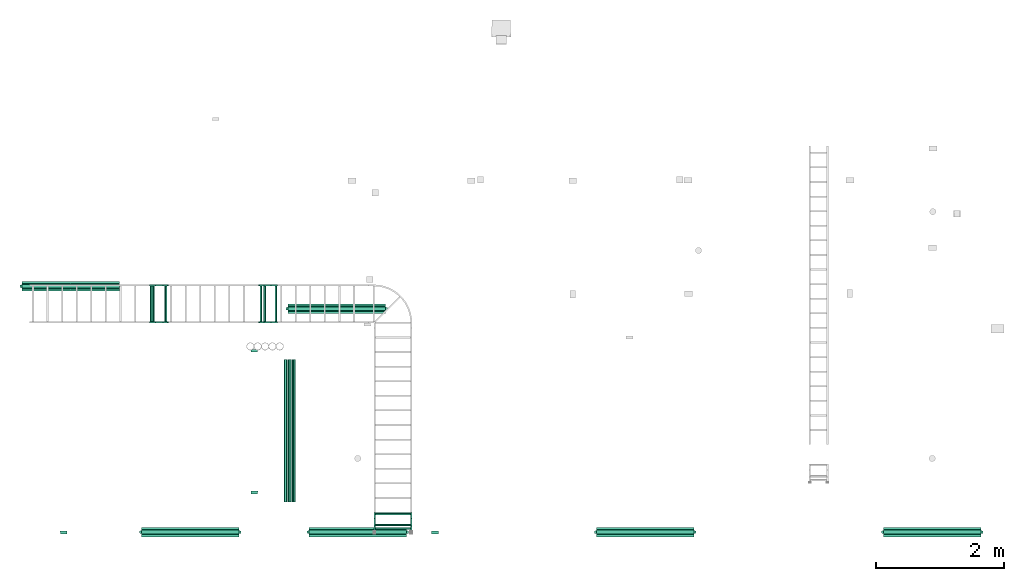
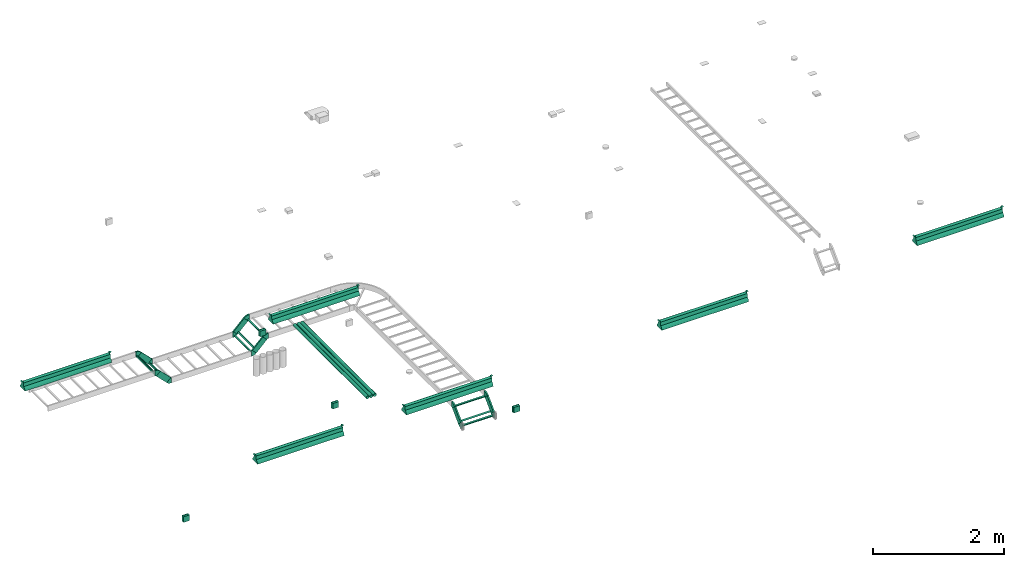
# One storey, part 1 of 14: 10 flow fittings, 6 flow segments, 6 flow terminals.
"""IFC2X3 building model written with IfcOpenShell, lengths in millimetres."""

from ifc_helpers import new_model, entity, si_unit, converted_unit, derived_unit, direction, frame, origin_with_axes, origin_2d_with_axis, place, context, subcontext, project, spatial, hollow_circle, extrude, open_shell, surface_model, source, transform, mapped, type_object, element, save


model = new_model("IFC2X3")

# Units and contexts
model_context = context("Model", 3, precision=0.01, world=frame((0.0, 4.29681676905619e-09, 0.0)), true_north=direction((4.01073788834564e-13, 1.0)))
plan_context = context("Plan", 3, precision=0.01, world=frame((0.0, 4.29681676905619e-09, 0.0)), true_north=direction((4.01073788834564e-13, 1.0)))
body_context = subcontext(model_context, "Body", "Model", "MODEL_VIEW")
ifc_project = project(units=[converted_unit("PLANEANGLEUNIT", "DEGREE", entity("IfcPositiveLengthMeasure", 0.0174532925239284), si_unit("PLANEANGLEUNIT", "RADIAN"), dimensions=[0, 0, 0, 0, 0, 0, 0]), si_unit("AREAUNIT", "SQUARE_METRE"), si_unit("LENGTHUNIT", "METRE", prefix="MILLI"), si_unit("MASSUNIT", "GRAM", prefix="KILO"), si_unit("POWERUNIT", "WATT"), si_unit("PRESSUREUNIT", "PASCAL"), si_unit("FORCEUNIT", "NEWTON", prefix="KILO"), si_unit("ELECTRICVOLTAGEUNIT", "VOLT"), si_unit("ELECTRICCURRENTUNIT", "AMPERE"), si_unit("THERMODYNAMICTEMPERATUREUNIT", "DEGREE_CELSIUS"), si_unit("TIMEUNIT", "SECOND"), si_unit("VOLUMEUNIT", "CUBIC_METRE"), derived_unit("LINEARVELOCITYUNIT", [(si_unit("LENGTHUNIT", "METRE"), 1), (si_unit("TIMEUNIT", "SECOND"), -1)]), derived_unit("VOLUMETRICFLOWRATEUNIT", [(si_unit("VOLUMEUNIT", "CUBIC_METRE"), 1), (si_unit("TIMEUNIT", "SECOND"), -1)]), derived_unit("THERMALTRANSMITTANCEUNIT", [(si_unit("POWERUNIT", "WATT"), 1), (si_unit("THERMODYNAMICTEMPERATUREUNIT", "KELVIN"), -1), (si_unit("AREAUNIT", "SQUARE_METRE"), -1)]), derived_unit("SOUNDPRESSUREUNIT", [(si_unit("PRESSUREUNIT", "PASCAL"), 1)])], contexts=[model_context, plan_context])

# Site, building, storey
site_placement = place(None, frame((0.0, -4.29681676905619e-09, 0.0), z_axis=(0.0, 0.0, 1.0), x_axis=(1.0, 0.0, 0.0)))
site = spatial("IfcSite", under=ifc_project, at=site_placement, Name="ENGM", CompositionType="ELEMENT")
building_placement = place(site_placement, frame((0.0, 4.29681676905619e-09, 0.0), z_axis=(0.0, 0.0, 1.0), x_axis=(1.0, 0.0, 0.0)))
building = spatial("IfcBuilding", under=site, at=building_placement, Name="TH", CompositionType="ELEMENT")
storey_placement = place(building_placement, frame((0.0, 0.0, 205200.0), z_axis=(0.0, 0.0, 1.0), x_axis=(1.0, 0.0, 0.0)))
storey = spatial("IfcBuildingStorey", under=building, at=storey_placement, Name="Nivå D + 1,2 m", CompositionType="ELEMENT", Elevation=205200.0)

# Flow fittings
cable_carrier_fitting_type_1 = type_object("IfcCableCarrierFittingType", Name="Kabelbro, bend vertikal (Outside)", PredefinedType="BEND")
shared_shape_1 = source(origin_with_axes(), body_context, "Body", "SurfaceModel", [
    surface_model("IfcShellBasedSurfaceModel", [(-9.29271, 55.62128, 274.60001), (0.42745, 32.15474, -274.60001), (-9.29271, 55.62128, -274.60001), (0.42745, 32.15474, 274.60001), (-23.03909, 22.43458, 274.60001), (-23.03909, 22.43458, -274.60001), (-32.75925, 45.90113, -274.60001), (-32.75925, 45.90113, 274.60001), (-34.85281, -50.0, 300.0), (-34.85281, 50.0, 274.60001), (-34.85281, -50.0, 274.60001), (-34.85281, 50.0, 300.0), (-34.85281, 50.0, -274.60001), (-34.85281, 50.0, -300.0), (-34.85281, -50.0, -300.0), (-34.85281, -50.0, -274.60001), (-24.85281, 50.0, 274.60001), (-24.85281, 50.0, 300.0), (-24.85281, -50.0, 274.60001), (3.61728, -46.25184, 274.60001), (-21.02598, 50.7612, 274.60001), (52.92893, -17.78175, 274.60001), (-17.78175, 52.92893, 274.60001), (-10.71068, 60.0, 274.60001), (60.0, -10.71068, 274.60001), (30.14719, -35.26279, 274.60001), (-24.85281, -50.0, 300.0), (3.61728, -46.25184, 300.0), (-21.02598, 50.7612, 300.0), (30.14719, -35.26279, 300.0), (-17.78175, 52.92893, 300.0), (52.92893, -17.78175, 300.0), (-10.71068, 60.0, 300.0), (60.0, -10.71068, 300.0), (-24.85281, 50.0, -300.0), (-24.85281, 50.0, -274.60001), (-24.85281, -50.0, -300.0), (3.61728, -46.25184, -300.0), (-21.02598, 50.7612, -300.0), (52.92893, -17.78175, -300.0), (-17.78175, 52.92893, -300.0), (-10.71068, 60.0, -300.0), (60.0, -10.71068, -300.0), (30.14719, -35.26279, -300.0), (-24.85281, -50.0, -274.60001), (3.61728, -46.25184, -274.60001), (-21.02598, 50.7612, -274.60001), (30.14719, -35.26279, -274.60001), (-17.78175, 52.92893, -274.60001), (52.92893, -17.78175, -274.60001), (-10.71068, 60.0, -274.60001), (60.0, -10.71068, -274.60001)], [open_shell([[[0, 1, 2]], [[1, 0, 3]], [[1, 3, 4]], [[4, 5, 1]], [[2, 1, 5]], [[5, 6, 2]], [[0, 2, 6]], [[6, 7, 0]], [[3, 0, 7]], [[7, 4, 3]], [[6, 5, 7]], [[4, 7, 5]], [[8, 9, 10]], [[9, 8, 11]], [[12, 13, 14]], [[14, 15, 12]], [[9, 11, 16]], [[17, 16, 11]], [[9, 18, 10]], [[18, 9, 16]], [[19, 18, 16]], [[16, 20, 19]], [[21, 22, 23]], [[21, 23, 24]], [[25, 19, 20]], [[25, 22, 21]], [[25, 20, 22]], [[8, 10, 18]], [[18, 26, 8]], [[8, 26, 11]], [[17, 11, 26]], [[27, 28, 17]], [[17, 26, 27]], [[28, 29, 30]], [[30, 29, 31]], [[31, 32, 30]], [[32, 31, 33]], [[29, 28, 27]], [[13, 12, 34]], [[35, 34, 12]], [[13, 36, 14]], [[36, 13, 34]], [[37, 36, 34]], [[34, 38, 37]], [[39, 40, 41]], [[39, 41, 42]], [[43, 37, 38]], [[43, 40, 39]], [[43, 38, 40]], [[15, 14, 36]], [[36, 44, 15]], [[15, 44, 12]], [[35, 12, 44]], [[45, 46, 35]], [[35, 44, 45]], [[46, 47, 48]], [[48, 47, 49]], [[49, 50, 48]], [[50, 49, 51]], [[47, 46, 45]], [[28, 16, 17]], [[20, 16, 28]], [[30, 22, 20]], [[28, 30, 20]], [[18, 19, 27]], [[27, 26, 18]], [[19, 29, 27]], [[25, 21, 29]], [[31, 29, 21]], [[25, 29, 19]], [[35, 38, 34]], [[46, 38, 35]], [[48, 40, 46]], [[38, 46, 40]], [[36, 37, 44]], [[45, 44, 37]], [[37, 43, 45]], [[43, 39, 49]], [[49, 47, 43]], [[43, 47, 45]], [[24, 23, 32]], [[32, 33, 24]], [[42, 41, 50]], [[50, 51, 42]], [[22, 30, 32]], [[32, 23, 22]], [[31, 21, 24]], [[24, 33, 31]], [[40, 48, 41]], [[50, 41, 48]], [[49, 39, 42]], [[42, 51, 49]]])]),
])
for number, where, z_axis, x_axis, name in (
    (1, (898957.95056, 481175.0, 4345.29999999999), (0.0, -1.0, 0.0), (-1.0, 0.0, 0.0), "Kabelbro, bend vertikal (Outside)"),
    (2, (897028.67479, 481175.0, 4345.29999999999), (0.0, -1.0, 0.0), (-0.707106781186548, 0.0, 0.707106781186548), "Kabelbro, bend vertikal (Outside)"),
    (3, (900805.0, 477868.39967, 4345.29999999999), (1.0, 0.0, 0.0), (0.0, -1.0, 0.0), "Kabelbro, bend vertikal (Outside)"),
):
    element("IfcFlowFitting", number, at=place(storey_placement, frame(where, z_axis=z_axis, x_axis=x_axis)), inside=storey, type_object=cable_carrier_fitting_type_1, Name=name, context=body_context, shape_type="MappedRepresentation", body=[
        mapped(shared_shape_1, transform((0.0, 0.0, 0.0), scale=1.0)),
    ])
cable_carrier_fitting_type_2 = type_object("IfcCableCarrierFittingType", Name="Kabelbro, bend vertikal (Inside)", PredefinedType="BEND")
shared_shape_2 = source(origin_with_axes(), body_context, "Body", "SurfaceModel", [
    surface_model("IfcShellBasedSurfaceModel", [(3.61728, -46.25184, 274.60001), (-24.85281, -50.0, 274.60001), (-24.85281, 50.0, 274.60001), (-21.02598, 50.7612, 274.60001), (30.14719, -35.26279, 274.60001), (-17.78175, 52.92893, 274.60001), (52.92893, -17.78175, 274.60001), (3.61728, -46.25184, 300.0), (-21.02598, 50.7612, 300.0), (-24.85281, 50.0, 300.0), (-24.85281, -50.0, 300.0), (30.14719, -35.26279, 300.0), (-17.78175, 52.92893, 300.0), (52.92893, -17.78175, 300.0), (3.61728, -46.25184, -300.0), (-24.85281, -50.0, -300.0), (-24.85281, 50.0, -300.0), (-21.02598, 50.7612, -300.0), (30.14719, -35.26279, -300.0), (-17.78175, 52.92893, -300.0), (52.92893, -17.78175, -300.0), (3.61728, -46.25184, -274.60001), (-21.02598, 50.7612, -274.60001), (-24.85281, 50.0, -274.60001), (-24.85281, -50.0, -274.60001), (30.14719, -35.26279, -274.60001), (-17.78175, 52.92893, -274.60001), (52.92893, -17.78175, -274.60001), (19.25547, -13.30013, 274.60001), (28.97563, -36.76667, -274.60001), (19.25547, -13.30013, -274.60001), (28.97563, -36.76667, 274.60001), (5.50909, -46.48683, -274.60001), (5.50909, -46.48683, 274.60001), (-4.21107, -23.02029, -274.60001), (-4.21107, -23.02029, 274.60001), (-27.85281, -50.0, 300.0), (-27.85281, 50.0, 274.60001), (-27.85281, -50.0, 274.60001), (-27.85281, 50.0, 300.0), (-27.85281, 50.0, -274.60001), (-27.85281, 50.0, -300.0), (-27.85281, -50.0, -300.0), (-27.85281, -50.0, -274.60001), (-15.66043, 55.05025, 274.60001), (55.05025, -15.66043, 274.60001), (-15.66043, 55.05025, 300.0), (55.05025, -15.66043, 300.0), (-15.66043, 55.05025, -300.0), (55.05025, -15.66043, -300.0), (-15.66043, 55.05025, -274.60001), (55.05025, -15.66043, -274.60001)], [open_shell([[[0, 1, 2]], [[2, 3, 0]], [[4, 0, 3]], [[4, 5, 6]], [[4, 3, 5]], [[7, 8, 9]], [[9, 10, 7]], [[8, 11, 12]], [[12, 11, 13]], [[11, 8, 7]], [[14, 15, 16]], [[16, 17, 14]], [[18, 14, 17]], [[18, 19, 20]], [[18, 17, 19]], [[21, 22, 23]], [[23, 24, 21]], [[22, 25, 26]], [[26, 25, 27]], [[25, 22, 21]], [[8, 2, 9]], [[3, 2, 8]], [[12, 5, 3]], [[8, 12, 3]], [[1, 0, 7]], [[7, 10, 1]], [[0, 11, 7]], [[4, 6, 11]], [[13, 11, 6]], [[4, 11, 0]], [[23, 17, 16]], [[22, 17, 23]], [[26, 19, 22]], [[17, 22, 19]], [[15, 14, 24]], [[21, 24, 14]], [[14, 18, 21]], [[18, 20, 27]], [[27, 25, 18]], [[18, 25, 21]], [[28, 29, 30]], [[29, 28, 31]], [[29, 31, 32]], [[33, 32, 31]], [[30, 29, 32]], [[32, 34, 30]], [[28, 30, 35]], [[34, 35, 30]], [[31, 28, 33]], [[35, 33, 28]], [[34, 32, 33]], [[33, 35, 34]], [[36, 37, 38]], [[37, 36, 39]], [[40, 41, 42]], [[42, 43, 40]], [[37, 39, 2]], [[9, 2, 39]], [[37, 1, 38]], [[1, 37, 2]], [[6, 5, 44]], [[6, 44, 45]], [[36, 38, 1]], [[1, 10, 36]], [[36, 10, 39]], [[9, 39, 10]], [[13, 46, 12]], [[46, 13, 47]], [[41, 40, 16]], [[23, 16, 40]], [[41, 15, 42]], [[15, 41, 16]], [[20, 19, 48]], [[20, 48, 49]], [[43, 42, 15]], [[15, 24, 43]], [[43, 24, 40]], [[23, 40, 24]], [[27, 50, 26]], [[50, 27, 51]], [[45, 44, 47]], [[46, 47, 44]], [[49, 48, 51]], [[50, 51, 48]], [[5, 12, 46]], [[46, 44, 5]], [[13, 6, 45]], [[45, 47, 13]], [[19, 26, 48]], [[50, 48, 26]], [[27, 20, 49]], [[49, 51, 27]]])]),
])
for number, where, z_axis, x_axis, name in (
    (4, (898727.95056, 481175.0, 4115.29999999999), (0.0, 1.0, 0.0), (-0.707106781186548, 0.0, -0.707106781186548), "Kabelbro, bend vertikal (Inside)"),
    (5, (897258.67479, 481175.0, 4115.29999999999), (0.0, 1.0, 0.0), (-1.0, 0.0, 0.0), "Kabelbro, bend vertikal (Inside)"),
    (6, (900805.0, 477638.39967, 4115.29999999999), (-1.0, 0.0, 0.0), (0.0, -0.707106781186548, -0.707106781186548), "Kabelbro, bend vertikal (Inside)"),
):
    element("IfcFlowFitting", number, at=place(storey_placement, frame(where, z_axis=z_axis, x_axis=x_axis)), inside=storey, type_object=cable_carrier_fitting_type_2, Name=name, context=body_context, shape_type="MappedRepresentation", body=[
        mapped(shared_shape_2, transform((0.0, 0.0, 0.0), scale=1.0)),
    ])
junction_box_type = type_object("IfcJunctionBoxType", Name="Koblingsboks åpen", PredefinedType="NOTDEFINED")
shared_shape_3 = source(origin_with_axes(), body_context, "Body", "SurfaceModel", [
    surface_model("IfcShellBasedSurfaceModel", [(-55.0, 46.0, 55.0), (-55.0, 32.2, 55.0), (55.0, 32.2, 55.0), (55.0, 46.0, 55.0), (55.0, 46.0, -55.0), (55.0, 32.2, -55.0), (-55.0, 32.2, -55.0), (-55.0, 46.0, -55.0), (-52.0, 32.2, 52.0), (-52.0, 0.0, 52.0), (52.0, 0.0, 52.0), (52.0, 32.2, 52.0), (52.0, 32.2, -52.0), (52.0, 0.0, -52.0), (-52.0, 0.0, -52.0), (-52.0, 32.2, -52.0)], [open_shell([[[0, 1, 2]], [[2, 3, 0]], [[4, 5, 6]], [[6, 7, 4]], [[2, 1, 6]], [[6, 5, 2]], [[3, 2, 5]], [[5, 4, 3]], [[0, 3, 4]], [[4, 7, 0]], [[1, 0, 7]], [[7, 6, 1]], [[8, 9, 10]], [[10, 11, 8]], [[12, 13, 14]], [[14, 15, 12]], [[10, 9, 14]], [[14, 13, 10]], [[11, 10, 13]], [[13, 12, 11]], [[8, 11, 12]], [[12, 15, 8]], [[9, 8, 15]], [[15, 14, 9]]])]),
])
for number, where, z_axis, x_axis in (
    (7, (898633.58194, 480415.49096, 4800.0), (0.0, 0.0, 1.0), (1.0, 0.0, 0.0)),
    (8, (898633.58194, 478195.49096, 4800.0), (0.0, 0.0, 1.0), (1.0, 0.0, 0.0)),
    (9, (901463.63102, 477570.0125, 4115.0), (0.0, 0.0, 1.0), (1.0, 0.0, 0.0)),
    (10, (895644.66669, 477570.0125, 4115.0), (0.0, 0.0, 1.0), (1.0, 0.0, 0.0)),
):
    element("IfcFlowFitting", number, at=place(storey_placement, frame(where, z_axis=z_axis, x_axis=x_axis)), inside=storey, type_object=junction_box_type, Name="Koblingsboks åpen", context=body_context, shape_type="MappedRepresentation", body=[
        mapped(shared_shape_3, transform((0.0, 0.0, 0.0), scale=1.0)),
    ])

# Flow segments
cable_carrier_segment_type_1 = type_object("IfcCableCarrierSegmentType", Name="Kabelbro", PredefinedType="CABLELADDERSEGMENT")
shared_shape_4 = source(origin_with_axes(), body_context, "Body", "SurfaceModel", [
    surface_model("IfcShellBasedSurfaceModel", [(215.89999, -274.60001, -24.6), (241.30001, -274.60001, -24.6), (241.30001, 274.60001, -24.6), (215.89999, 274.60001, -24.6), (241.30001, -274.60001, -50.0), (215.89999, -274.60001, -50.0), (215.89999, 274.60001, -50.0), (241.30001, 274.60001, -50.0), (0.0, -300.0, -50.0), (0.0, -300.0, 50.0), (0.0, -274.60001, 50.0), (0.0, -274.60001, -50.0), (0.0, 300.0, -50.0), (0.0, 274.60001, 50.0), (0.0, 300.0, 50.0), (0.0, 274.60001, -50.0), (262.5635, -274.60001, 50.0), (262.5635, -300.0, 50.0), (262.5635, -300.0, -50.0), (262.5635, -274.60001, -50.0), (262.5635, 300.0, 50.0), (262.5635, 274.60001, 50.0), (262.5635, 274.60001, -50.0), (262.5635, 300.0, -50.0)], [open_shell([[[0, 1, 2]], [[2, 3, 0]], [[4, 5, 6]], [[6, 7, 4]], [[8, 9, 10]], [[10, 11, 8]], [[12, 13, 14]], [[13, 12, 15]], [[16, 17, 18]], [[18, 19, 16]], [[20, 21, 22]], [[22, 23, 20]], [[9, 8, 18]], [[18, 17, 9]], [[10, 9, 16]], [[17, 16, 9]], [[11, 10, 19]], [[16, 19, 10]], [[8, 11, 18]], [[19, 18, 11]], [[12, 14, 23]], [[20, 23, 14]], [[15, 12, 22]], [[23, 22, 12]], [[13, 15, 21]], [[22, 21, 15]], [[14, 13, 20]], [[21, 20, 13]], [[1, 0, 5]], [[5, 4, 1]], [[6, 3, 2]], [[2, 7, 6]], [[1, 4, 7]], [[7, 2, 1]], [[5, 0, 3]], [[3, 6, 5]]])]),
])
for number, where, z_axis, x_axis in (
    (11, (898933.3059, 481175.0, 4320.65534), (-0.707106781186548, 0.0, 0.707106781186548), (-0.707106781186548, 0.0, -0.707106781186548)),
    (12, (897238.97988, 481175.0, 4134.99491000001), (0.707106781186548, 0.0, 0.707106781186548), (-0.707106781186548, 0.0, 0.707106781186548)),
    (13, (900805.0, 477843.75501, 4320.65534), (0.0, -0.707106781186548, 0.707106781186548), (0.0, -0.707106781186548, -0.707106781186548)),
):
    element("IfcFlowSegment", number, at=place(storey_placement, frame(where, z_axis=z_axis, x_axis=x_axis)), inside=storey, type_object=cable_carrier_segment_type_1, Name="Kabelbro", context=body_context, shape_type="MappedRepresentation", body=[
        mapped(shared_shape_4, transform((0.0, 0.0, 0.0), scale=1.0)),
    ])
cable_carrier_segment_type_2 = type_object("IfcCableCarrierSegmentType", Name="Trekkerør, glatt", PredefinedType="CONDUITSEGMENT")
shared_shape_5 = source(origin_with_axes(), body_context, "Body", "SweptSolid", [
    extrude(hollow_circle(Radius=27.9, WallThickness=2.0, at=origin_2d_with_axis()), frame((0.0, 0.0, 0.0), z_axis=(1.0, 0.0, 0.0), x_axis=(0.0, 1.0, 0.0)), (0.0, 0.0, 1.0), 2230.0),
])
for number, where, z_axis, x_axis in (
    (14, (899124.47924, 480300.01058, 4852.39046), (0.0, 0.0, 1.0), (0.0, -1.0, 0.0)),
    (15, (899188.87924, 480300.01058, 4852.39046), (0.0, 0.0, 1.0), (0.0, -1.0, 0.0)),
    (16, (899253.27924, 480300.01058, 4852.39046), (0.0, 0.0, 1.0), (0.0, -1.0, 0.0)),
):
    element("IfcFlowSegment", number, at=place(storey_placement, frame(where, z_axis=z_axis, x_axis=x_axis)), inside=storey, type_object=cable_carrier_segment_type_2, Name="Trekkerør, glatt", context=body_context, shape_type="MappedRepresentation", body=[
        mapped(shared_shape_5, transform((0.0, 0.0, 0.0), scale=1.0)),
    ])

# Flow terminals
light_fixture_type = type_object("IfcLightFixtureType", Name="IB1152", PredefinedType="NOTDEFINED")
shared_shape_6 = source(origin_with_axes(), body_context, "Body", "SurfaceModel", [
    surface_model("IfcShellBasedSurfaceModel", [(795.00002, -17.0, -0.1), (765.00003, -25.0, -0.1), (765.00003, 25.0, -0.1), (795.00002, 17.0, -0.1), (795.00002, 17.0, 0.1), (765.00003, 25.0, 0.1), (765.00003, -25.0, 0.1), (795.00002, -17.0, 0.1), (765.10003, -25.0, 0.0), (765.10003, -30.0, -25.0), (765.10003, 25.0, 0.0), (765.10003, 30.0, -25.0), (764.89997, 25.0, 0.0), (764.89997, 30.0, -25.0), (764.89997, -25.0, 0.0), (764.89997, -30.0, -25.0), (0.0, 29.80135, -25.0164), (0.1, 39.80135, -85.1664), (765.00003, 29.80135, -25.0164), (765.10003, 39.80135, -85.1664), (765.00003, 29.99865, -24.9836), (765.10003, 39.99864, -85.1336), (0.1, 39.99864, -85.1336), (0.0, 29.99865, -24.9836), (0.0, -29.99865, -24.9836), (0.1, -39.99864, -85.1336), (765.00003, -29.99865, -24.9836), (765.10003, -39.99864, -85.1336), (765.00003, -29.80135, -25.0164), (765.10003, -39.80135, -85.1664), (0.1, -39.80135, -85.1664), (0.0, -29.80135, -25.0164), (764.89997, -30.0, -27.0), (764.89997, 30.0, -27.0), (-2e-05, -30.0, -27.0), (-2e-05, 30.0, -27.0), (-2e-05, -30.0, -27.2), (-2e-05, 30.0, -27.2), (764.89997, 30.0, -27.2), (764.89997, -30.0, -27.2), (765.10003, -30.0, -24.99984), (765.20002, -40.0, -86.14984), (765.10003, 30.0, -24.99984), (765.20002, 40.0, -86.14984), (764.89997, 30.0, -25.00016), (765.00003, 40.0, -86.15016), (765.00003, -40.0, -86.15016), (764.89997, -30.0, -25.00016), (-795.00002, -17.0, 0.1), (-765.00003, -25.0, 0.1), (-765.00003, 25.0, 0.1), (-795.00002, 17.0, 0.1), (-795.00002, 17.0, -0.1), (-765.00003, 25.0, -0.1), (-765.00003, -25.0, -0.1), (-795.00002, -17.0, -0.1), (-764.89997, -25.0, 0.0), (-764.89997, -30.0, -25.0), (-764.89997, 25.0, 0.0), (-764.89997, 30.0, -25.0), (-765.10003, 25.0, 0.0), (-765.10003, 30.0, -25.0), (-765.10003, -25.0, 0.0), (-765.10003, -30.0, -25.0), (-0.1, 39.99864, -85.1336), (-765.00003, 29.99865, -24.9836), (-765.10003, 39.99864, -85.1336), (-765.00003, 29.80135, -25.0164), (-765.10003, 39.80135, -85.1664), (-0.1, 39.80135, -85.1664), (-0.1, -39.80135, -85.1664), (-765.00003, -29.80135, -25.0164), (-765.10003, -39.80135, -85.1664), (-765.00003, -29.99865, -24.9836), (-765.10003, -39.99864, -85.1336), (-0.1, -39.99864, -85.1336), (-764.89997, -30.0, -27.2), (-764.89997, 30.0, -27.2), (2e-05, -30.0, -27.2), (2e-05, 30.0, -27.2), (2e-05, -30.0, -27.0), (2e-05, 30.0, -27.0), (-764.89997, 30.0, -27.0), (-764.89997, -30.0, -27.0), (-764.89997, -30.0, -25.00016), (-765.00003, -40.0, -86.15016), (-764.89997, 30.0, -25.00016), (-765.00003, 40.0, -86.15016), (-765.10003, 30.0, -24.99984), (-765.20002, 40.0, -86.14984), (-765.20002, -40.0, -86.14984), (-765.10003, -30.0, -24.99984), (765.00003, -75.5, -150.0), (765.00003, -74.7, -150.0), (765.00003, -72.9274, -130.45916), (765.00003, -72.15466, -130.66622), (765.00003, -64.6921, -112.65), (765.00003, -65.38492, -112.25), (765.00003, -53.38656, -96.61343), (765.00003, -52.82088, -97.17912), (765.00003, -37.75, -84.61508), (765.00003, -37.35, -85.3079), (765.00003, -19.33378, -77.84534), (765.00003, -19.54084, -77.0726), (765.00003, 0.0, -74.5), (765.00003, 0.0, -75.3), (765.00003, 64.6921, -112.65), (765.00003, 72.15466, -130.66622), (765.00003, 65.38492, -112.25), (765.00003, 72.9274, -130.45916), (765.00003, 53.38656, -96.61343), (765.00003, 74.7, -150.0), (765.00003, 75.5, -150.0), (765.00003, 19.33378, -77.84534), (765.00003, 19.54084, -77.0726), (765.00003, 37.35, -85.3079), (765.00003, 52.82088, -97.17912), (765.00003, 37.75, -84.61508), (-765.00003, 75.5, -150.0), (-765.00003, 74.7, -150.0), (-765.00003, 72.9274, -130.45916), (-765.00003, 72.15466, -130.66622), (-765.00003, 64.6921, -112.65), (-765.00003, 65.38492, -112.25), (-765.00003, 53.38656, -96.61343), (-765.00003, 52.82088, -97.17912), (-765.00003, 37.75, -84.61508), (-765.00003, 37.35, -85.3079), (-765.00003, 19.33378, -77.84534), (-765.00003, 19.54084, -77.0726), (-765.00003, 0.0, -74.5), (-765.00003, 0.0, -75.3), (-765.00003, -64.6921, -112.65), (-765.00003, -72.15466, -130.66622), (-765.00003, -65.38492, -112.25), (-765.00003, -72.9274, -130.45916), (-765.00003, -53.38656, -96.61343), (-765.00003, -74.7, -150.0), (-765.00003, -75.5, -150.0), (-765.00003, -19.33378, -77.84534), (-765.00003, -19.54084, -77.0726), (-765.00003, -37.35, -85.3079), (-765.00003, -52.82088, -97.17912), (-765.00003, -37.75, -84.61508), (765.10003, -75.5, -150.0), (765.10003, 0.0, -150.0), (765.10003, -72.9274, -130.45916), (765.10003, -65.38492, -112.25), (765.10003, -53.38656, -96.61343), (765.10003, -37.75, -84.61508), (765.10003, -19.54084, -77.0726), (765.10003, 0.0, -74.5), (765.10003, 72.9274, -130.45916), (765.10003, 65.38492, -112.25), (765.10003, 53.38656, -96.61343), (765.10003, 19.54084, -77.0726), (765.10003, 37.75, -84.61508), (765.10003, 75.5, -150.0), (764.89997, 75.5, -150.0), (764.89997, 0.0, -150.0), (764.89997, 72.9274, -130.45916), (764.89997, 65.38492, -112.25), (764.89997, 53.38656, -96.61343), (764.89997, 37.75, -84.61508), (764.89997, 19.54084, -77.0726), (764.89997, 0.0, -74.5), (764.89997, -72.9274, -130.45916), (764.89997, -65.38492, -112.25), (764.89997, -53.38656, -96.61343), (764.89997, -19.54084, -77.0726), (764.89997, -37.75, -84.61508), (764.89997, -75.5, -150.0), (-764.89997, -75.5, -150.0), (-764.89997, 0.0, -150.0), (-764.89997, -72.9274, -130.45916), (-764.89997, -65.38492, -112.25), (-764.89997, -53.38656, -96.61343), (-764.89997, -37.75, -84.61508), (-764.89997, -19.54084, -77.0726), (-764.89997, 0.0, -74.5), (-764.89997, 72.9274, -130.45916), (-764.89997, 65.38492, -112.25), (-764.89997, 53.38656, -96.61343), (-764.89997, 19.54084, -77.0726), (-764.89997, 37.75, -84.61508), (-764.89997, 75.5, -150.0), (-765.10003, 75.5, -150.0), (-765.10003, 0.0, -150.0), (-765.10003, 72.9274, -130.45916), (-765.10003, 65.38492, -112.25), (-765.10003, 53.38656, -96.61343), (-765.10003, 37.75, -84.61508), (-765.10003, 19.54084, -77.0726), (-765.10003, 0.0, -74.5), (-765.10003, -72.9274, -130.45916), (-765.10003, -65.38492, -112.25), (-765.10003, -53.38656, -96.61343), (-765.10003, -19.54084, -77.0726), (-765.10003, -37.75, -84.61508), (-765.10003, -75.5, -150.0)], [open_shell([[[0, 1, 2]], [[2, 3, 0]], [[4, 5, 6]], [[6, 7, 4]], [[2, 1, 6]], [[6, 5, 2]], [[3, 2, 5]], [[5, 4, 3]], [[0, 3, 4]], [[4, 7, 0]], [[1, 0, 7]], [[7, 6, 1]], [[8, 9, 10]], [[11, 10, 9]], [[12, 13, 14]], [[15, 14, 13]], [[11, 9, 15]], [[15, 13, 11]], [[10, 11, 13]], [[13, 12, 10]], [[8, 10, 12]], [[12, 14, 8]], [[9, 8, 15]], [[14, 15, 8]], [[16, 17, 18]], [[19, 18, 17]], [[20, 21, 22]], [[22, 23, 20]], [[19, 17, 22]], [[22, 21, 19]], [[18, 19, 21]], [[21, 20, 18]], [[16, 18, 23]], [[20, 23, 18]], [[17, 16, 23]], [[23, 22, 17]], [[24, 25, 26]], [[27, 26, 25]], [[28, 29, 30]], [[30, 31, 28]], [[27, 25, 30]], [[30, 29, 27]], [[26, 27, 29]], [[29, 28, 26]], [[24, 26, 31]], [[28, 31, 26]], [[25, 24, 31]], [[31, 30, 25]], [[32, 33, 34]], [[35, 34, 33]], [[36, 37, 38]], [[38, 39, 36]], [[35, 33, 38]], [[38, 37, 35]], [[34, 35, 37]], [[37, 36, 34]], [[32, 34, 36]], [[36, 39, 32]], [[33, 32, 39]], [[39, 38, 33]], [[40, 41, 42]], [[43, 42, 41]], [[44, 45, 46]], [[46, 47, 44]], [[43, 41, 46]], [[46, 45, 43]], [[42, 43, 44]], [[45, 44, 43]], [[40, 42, 44]], [[44, 47, 40]], [[41, 40, 47]], [[47, 46, 41]], [[48, 49, 50]], [[50, 51, 48]], [[52, 53, 54]], [[54, 55, 52]], [[50, 49, 54]], [[54, 53, 50]], [[51, 50, 53]], [[53, 52, 51]], [[48, 51, 52]], [[52, 55, 48]], [[49, 48, 55]], [[55, 54, 49]], [[56, 57, 58]], [[59, 58, 57]], [[60, 61, 62]], [[63, 62, 61]], [[59, 57, 63]], [[63, 61, 59]], [[58, 59, 61]], [[61, 60, 58]], [[56, 58, 60]], [[60, 62, 56]], [[57, 56, 63]], [[62, 63, 56]], [[23, 64, 65]], [[66, 65, 64]], [[67, 68, 69]], [[69, 16, 67]], [[66, 64, 69]], [[69, 68, 66]], [[65, 66, 68]], [[68, 67, 65]], [[23, 65, 67]], [[67, 16, 23]], [[64, 23, 16]], [[16, 69, 64]], [[31, 70, 71]], [[72, 71, 70]], [[73, 74, 75]], [[75, 24, 73]], [[72, 70, 75]], [[75, 74, 72]], [[71, 72, 74]], [[74, 73, 71]], [[31, 71, 24]], [[73, 24, 71]], [[70, 31, 24]], [[24, 75, 70]], [[76, 77, 78]], [[79, 78, 77]], [[80, 81, 82]], [[82, 83, 80]], [[79, 77, 82]], [[82, 81, 79]], [[78, 79, 81]], [[81, 80, 78]], [[76, 78, 80]], [[80, 83, 76]], [[77, 76, 83]], [[83, 82, 77]], [[84, 85, 86]], [[87, 86, 85]], [[88, 89, 90]], [[90, 91, 88]], [[87, 85, 90]], [[90, 89, 87]], [[86, 87, 89]], [[89, 88, 86]], [[84, 86, 88]], [[88, 91, 84]], [[85, 84, 90]], [[91, 90, 84]], [[92, 93, 94]], [[94, 93, 95]], [[95, 96, 97]], [[97, 96, 98]], [[95, 97, 94]], [[98, 99, 100]], [[99, 98, 96]], [[100, 99, 101]], [[101, 102, 103]], [[104, 102, 105]], [[102, 104, 103]], [[101, 103, 100]], [[106, 107, 108]], [[108, 107, 109]], [[106, 108, 110]], [[109, 111, 112]], [[111, 109, 107]], [[104, 113, 114]], [[105, 113, 104]], [[114, 113, 115]], [[116, 110, 117]], [[110, 116, 106]], [[115, 117, 114]], [[117, 115, 116]], [[118, 119, 120]], [[120, 119, 121]], [[121, 122, 123]], [[123, 122, 124]], [[121, 123, 120]], [[124, 125, 126]], [[125, 124, 122]], [[126, 125, 127]], [[127, 128, 129]], [[130, 128, 131]], [[128, 130, 129]], [[127, 129, 126]], [[132, 133, 134]], [[134, 133, 135]], [[132, 134, 136]], [[135, 137, 138]], [[137, 135, 133]], [[130, 139, 140]], [[131, 139, 130]], [[140, 139, 141]], [[142, 136, 143]], [[136, 142, 132]], [[141, 143, 140]], [[143, 141, 142]], [[93, 92, 138]], [[138, 137, 93]], [[96, 95, 132]], [[95, 93, 137]], [[101, 99, 141]], [[142, 99, 96]], [[101, 139, 102]], [[137, 133, 95]], [[133, 132, 95]], [[132, 142, 96]], [[142, 141, 99]], [[101, 141, 139]], [[139, 131, 102]], [[131, 105, 102]], [[115, 113, 127]], [[115, 125, 116]], [[107, 106, 121]], [[122, 106, 116]], [[111, 107, 119]], [[105, 128, 113]], [[128, 127, 113]], [[131, 128, 105]], [[127, 125, 115]], [[125, 122, 116]], [[106, 122, 121]], [[121, 119, 107]], [[112, 111, 119]], [[119, 118, 112]], [[109, 120, 123]], [[124, 108, 123]], [[117, 126, 129]], [[124, 126, 110]], [[114, 129, 130]], [[112, 118, 109]], [[118, 120, 109]], [[123, 108, 109]], [[124, 110, 108]], [[117, 110, 126]], [[129, 114, 117]], [[130, 104, 114]], [[103, 140, 143]], [[136, 100, 143]], [[97, 134, 135]], [[136, 134, 98]], [[94, 135, 138]], [[140, 103, 104]], [[143, 100, 103]], [[136, 98, 100]], [[134, 97, 98]], [[94, 97, 135]], [[138, 92, 94]], [[140, 104, 130]], [[144, 145, 146]], [[146, 145, 147]], [[147, 145, 148]], [[148, 145, 149]], [[145, 150, 149]], [[145, 151, 150]], [[145, 152, 153]], [[154, 145, 153]], [[145, 155, 151]], [[155, 145, 156]], [[156, 145, 154]], [[145, 157, 152]], [[158, 159, 160]], [[160, 159, 161]], [[161, 159, 162]], [[162, 159, 163]], [[159, 164, 163]], [[159, 165, 164]], [[159, 166, 167]], [[168, 159, 167]], [[159, 169, 165]], [[169, 159, 170]], [[170, 159, 168]], [[159, 171, 166]], [[145, 144, 159]], [[171, 159, 144]], [[157, 145, 158]], [[159, 158, 145]], [[160, 152, 158]], [[161, 153, 160]], [[156, 162, 163]], [[161, 162, 154]], [[155, 163, 164]], [[160, 153, 152]], [[152, 157, 158]], [[155, 156, 163]], [[154, 162, 156]], [[154, 153, 161]], [[151, 155, 164]], [[164, 165, 151]], [[169, 150, 165]], [[170, 149, 169]], [[147, 168, 167]], [[170, 168, 148]], [[146, 167, 166]], [[170, 148, 149]], [[149, 150, 169]], [[144, 146, 166]], [[147, 167, 146]], [[147, 148, 168]], [[171, 144, 166]], [[165, 150, 151]], [[172, 173, 174]], [[174, 173, 175]], [[175, 173, 176]], [[176, 173, 177]], [[173, 178, 177]], [[173, 179, 178]], [[173, 180, 181]], [[182, 173, 181]], [[173, 183, 179]], [[183, 173, 184]], [[184, 173, 182]], [[173, 185, 180]], [[186, 187, 188]], [[188, 187, 189]], [[189, 187, 190]], [[190, 187, 191]], [[187, 192, 191]], [[187, 193, 192]], [[187, 194, 195]], [[196, 187, 195]], [[187, 197, 193]], [[197, 187, 198]], [[198, 187, 196]], [[187, 199, 194]], [[173, 172, 187]], [[199, 187, 172]], [[185, 173, 186]], [[187, 186, 173]], [[188, 180, 186]], [[189, 181, 188]], [[184, 190, 191]], [[189, 190, 182]], [[183, 191, 192]], [[188, 181, 180]], [[180, 185, 186]], [[183, 184, 191]], [[182, 190, 184]], [[182, 181, 189]], [[179, 183, 192]], [[192, 193, 179]], [[197, 178, 193]], [[198, 177, 197]], [[175, 196, 195]], [[198, 196, 176]], [[174, 195, 194]], [[198, 176, 177]], [[177, 178, 197]], [[172, 174, 194]], [[175, 195, 174]], [[175, 176, 196]], [[199, 172, 194]], [[193, 178, 179]]])]),
])
for number, where, z_axis, x_axis, name in (
    (17, (904756.9875, 477597.04518, 4880.0), (0.0, 0.0, 1.0), (-1.0, 0.0, 0.0), "IB1152"),
    (18, (897630.025, 477597.04518, 4880.0), (0.0, 0.0, 1.0), (-1.0, 0.0, 0.0), "IB1152"),
    (19, (899925.71794, 481097.04518, 4560.29999999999), (0.0, 0.0, 1.0), (-1.0, 0.0, 0.0), "IB1152"),
    (20, (895756.9875, 481449.39518, 4560.29999999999), (0.0, 0.0, 1.0), (-1.0, 0.0, 0.0), "IB1152"),
    (21, (909255.55, 477597.04518, 4880.0), (0.0, 0.0, 1.0), (-1.0, 0.0, 0.0), "IB1152"),
    (22, (900255.55, 477597.04518, 4880.0), (0.0, 0.0, 1.0), (-1.0, 0.0, 0.0), "IB1152"),
):
    element("IfcFlowTerminal", number, at=place(storey_placement, frame(where, z_axis=z_axis, x_axis=x_axis)), inside=storey, type_object=light_fixture_type, Name=name, context=body_context, shape_type="MappedRepresentation", body=[
        mapped(shared_shape_6, transform((0.0, 0.0, 0.0), scale=1.0)),
    ])

save(model, "model.ifc")
